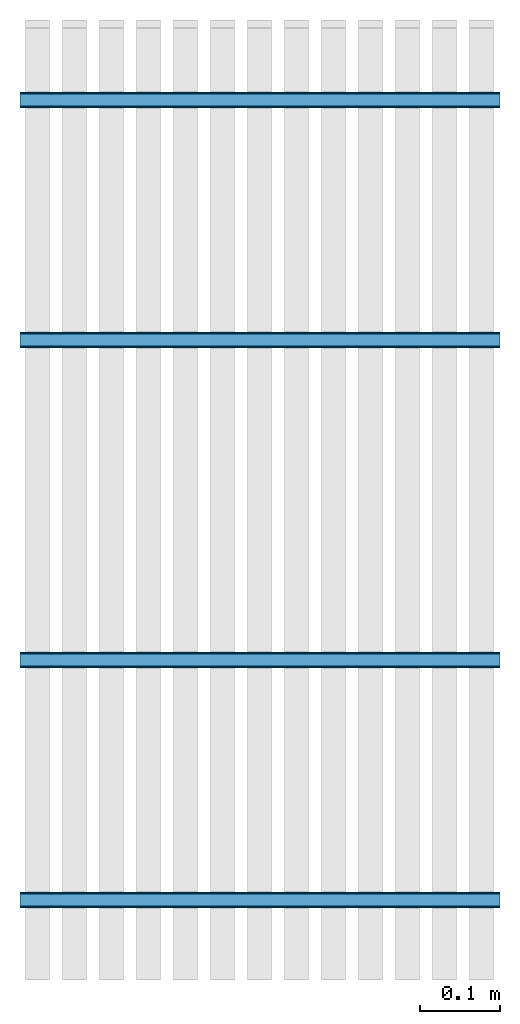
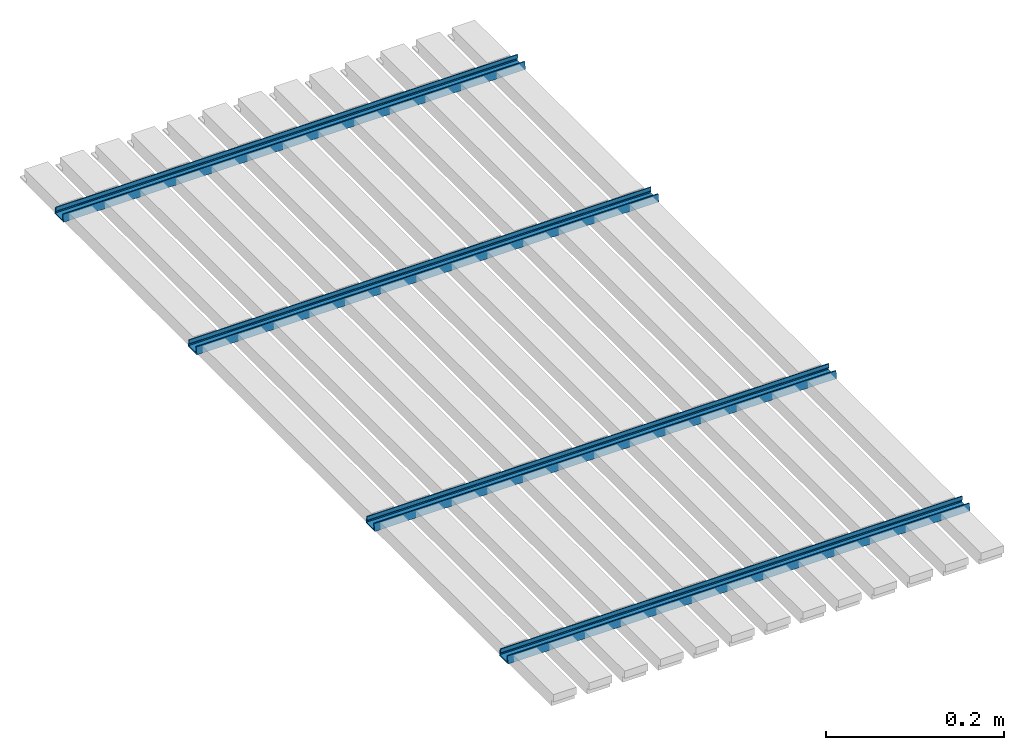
# One storey, part 1 of 3: 4 beams.
"""IFC2X3 building model written with IfcOpenShell, lengths in millimetres."""

from ifc_helpers import new_model, entity, si_unit, converted_unit, money_unit, direction, frame, origin_with_axes, place, context, subcontext, project, spatial, polyline, outline, extrude, material, type_object, element, save


model = new_model("IFC2X3")

# Units and contexts
model_context = context("Model", 3, precision=1e-05, world=origin_with_axes(), true_north=direction((0.0, 1.0)))
body_context = subcontext(model_context, "Body", "Model", "MODEL_VIEW")
ifc_project = project(units=[si_unit("LENGTHUNIT", "METRE", prefix="MILLI"), si_unit("AREAUNIT", "SQUARE_METRE"), si_unit("VOLUMEUNIT", "CUBIC_METRE"), converted_unit("PLANEANGLEUNIT", "DEGREE", entity("IfcPlaneAngleMeasure", 0.0174532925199), si_unit("PLANEANGLEUNIT", "RADIAN"), dimensions=[0, 0, 0, 0, 0, 0, 0]), si_unit("SOLIDANGLEUNIT", "STERADIAN"), money_unit("AUD"), si_unit("TIMEUNIT", "SECOND"), si_unit("MASSUNIT", "GRAM"), si_unit("THERMODYNAMICTEMPERATUREUNIT", "DEGREE_CELSIUS"), si_unit("LUMINOUSINTENSITYUNIT", "LUMEN")], contexts=[model_context])

# Site, building, storey
site_placement = place(None, origin_with_axes())
site = spatial("IfcSite", under=ifc_project, at=site_placement, Name="Site", CompositionType="ELEMENT")
building_placement = place(site_placement, origin_with_axes())
building = spatial("IfcBuilding", under=site, at=building_placement, Name="Building", CompositionType="ELEMENT")
storey_placement = place(building_placement, origin_with_axes())
storey = spatial("IfcBuildingStorey", under=building, at=storey_placement, Name="GROUND", CompositionType="ELEMENT", Elevation=0.0)

# Beams
ifc_material = material(Name="Brick - Internal Wall")
beam_type = type_object("IfcBeamType", Name="15MM GRID 20 x 10", PredefinedType="NOTDEFINED")
for number, where, z_axis, x_axis, name in (
    (1, (0.5, 100.0, 8.0), (0.0, 0.0, 1.0), (0.0, -1.0, 0.0), "BEAM-02"),
    (2, (0.5, 400.0, 8.0), (0.0, 0.0, 1.0), (0.0, -1.0, 0.0), "BEAM-02"),
    (3, (0.5, 800.0, 8.0), (0.0, 0.0, 1.0), (0.0, -1.0, 0.0), "BEAM-02"),
    (4, (0.5, 1100.0, 8.0), (0.0, 0.0, 1.0), (0.0, -1.0, 0.0), "BEAM-02"),
):
    element("IfcBeam", number, at=place(storey_placement, frame(where, z_axis=z_axis, x_axis=x_axis)), inside=storey, type_object=beam_type, material=ifc_material, Name=name, ObjectType="15MM GRID 20 x 10", context=body_context, shape_type="SweptSolid", body=[
        extrude(outline(polyline([(10.0, 0.0), (8.5, 10.0), (7.26018347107, 10.0), (8.06268347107, 4.65), (7.26018347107, 3.5), (8.53518347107, 1.5), (-8.53518347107, 1.5), (-8.23518347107, 3.5), (-7.56832504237, 4.65), (-7.26018347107, 10.0), (-8.5, 10.0), (-10.0, 0.0), (10.0, 0.0)])), frame((0.0, 600.0, 0.0), z_axis=(0.0, -1.0, 0.0), x_axis=(1.0, 0.0, 0.0)), (0.0, 0.0, 1.0), 600.0),
    ])

save(model, "model.ifc")
